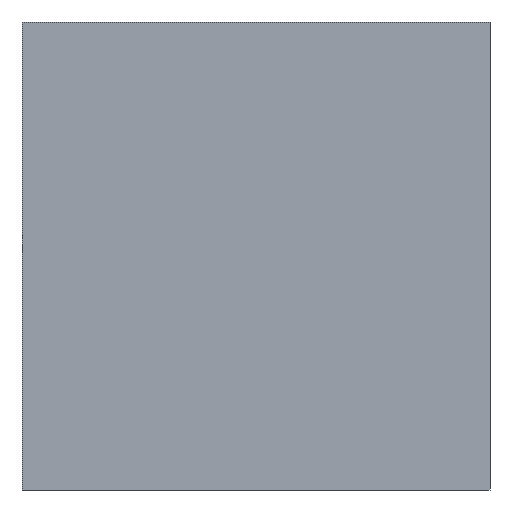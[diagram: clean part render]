
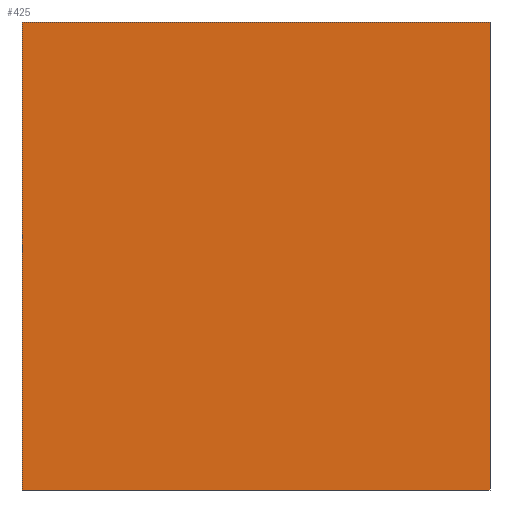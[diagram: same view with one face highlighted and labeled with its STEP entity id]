
A CAD part, front view. The second image highlights one B-rep face of the part: STEP entity #425.
In plain terms, the highlighted planar face has unit normal (0, -1, 0).
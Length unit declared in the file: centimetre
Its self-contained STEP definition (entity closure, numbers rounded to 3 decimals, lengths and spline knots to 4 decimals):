
#19 = EDGE_CURVE ( 'NONE', #634, #620, #56, .T. ) ;
#39 = EDGE_CURVE ( 'NONE', #620, #280, #602, .T. ) ;
#41 = DIRECTION ( 'NONE',  ( 0., 1., 0. ) ) ;
#48 = CARTESIAN_POINT ( 'NONE',  ( 0., 0., 1000. ) ) ;
#56 = LINE ( 'NONE', #521, #690 ) ;
#68 = EDGE_LOOP ( 'NONE', ( #912, #803, #120, #114 ) ) ;
#112 = VECTOR ( 'NONE', #343, 100. ) ;
#114 = ORIENTED_EDGE ( 'NONE', *, *, #254, .T. ) ;
#120 = ORIENTED_EDGE ( 'NONE', *, *, #19, .F. ) ;
#194 = DIRECTION ( 'NONE',  ( 1., 0., 0. ) ) ;
#245 = EDGE_CURVE ( 'NONE', #320, #280, #405, .T. ) ;
#254 = EDGE_CURVE ( 'NONE', #634, #320, #479, .T. ) ;
#280 = VERTEX_POINT ( 'NONE', #438 ) ;
#320 = VERTEX_POINT ( 'NONE', #864 ) ;
#343 = DIRECTION ( 'NONE',  ( 0., 0., -1. ) ) ;
#404 = PLANE ( 'NONE',  #666 ) ;
#405 = LINE ( 'NONE', #911, #444 ) ;
#425 = ADVANCED_FACE ( 'NONE', ( #704 ), #404, .F. ) ;
#438 = CARTESIAN_POINT ( 'NONE',  ( 1000., 0., 0. ) ) ;
#444 = VECTOR ( 'NONE', #194, 100. ) ;
#449 = CARTESIAN_POINT ( 'NONE',  ( 1000., 0., 1000. ) ) ;
#474 = VECTOR ( 'NONE', #745, 100. ) ;
#479 = LINE ( 'NONE', #48, #112 ) ;
#521 = CARTESIAN_POINT ( 'NONE',  ( 0., 0., 1000. ) ) ;
#568 = CARTESIAN_POINT ( 'NONE',  ( 1000., 0., 1000. ) ) ;
#602 = LINE ( 'NONE', #449, #474 ) ;
#620 = VERTEX_POINT ( 'NONE', #568 ) ;
#634 = VERTEX_POINT ( 'NONE', #929 ) ;
#666 = AXIS2_PLACEMENT_3D ( 'NONE', #930, #41, #783 ) ;
#690 = VECTOR ( 'NONE', #740, 100. ) ;
#704 = FACE_OUTER_BOUND ( 'NONE', #68, .T. ) ;
#740 = DIRECTION ( 'NONE',  ( 1., 0., 0. ) ) ;
#745 = DIRECTION ( 'NONE',  ( 0., 0., -1. ) ) ;
#783 = DIRECTION ( 'NONE',  ( 0., 0., 1. ) ) ;
#803 = ORIENTED_EDGE ( 'NONE', *, *, #39, .F. ) ;
#864 = CARTESIAN_POINT ( 'NONE',  ( 0., 0., 0. ) ) ;
#911 = CARTESIAN_POINT ( 'NONE',  ( 0., 0., 0. ) ) ;
#912 = ORIENTED_EDGE ( 'NONE', *, *, #245, .T. ) ;
#929 = CARTESIAN_POINT ( 'NONE',  ( 0., 0., 1000. ) ) ;
#930 = CARTESIAN_POINT ( 'NONE',  ( 0., 0., 1000. ) ) ;
